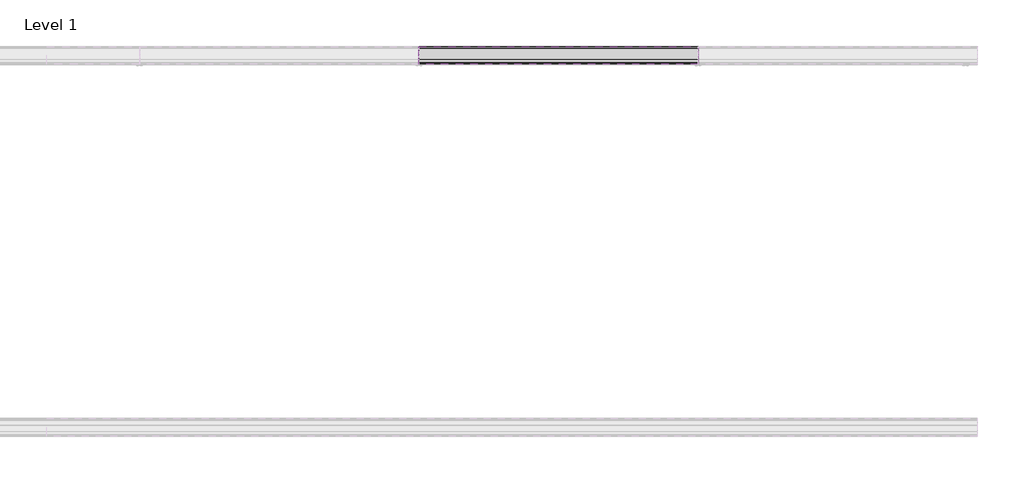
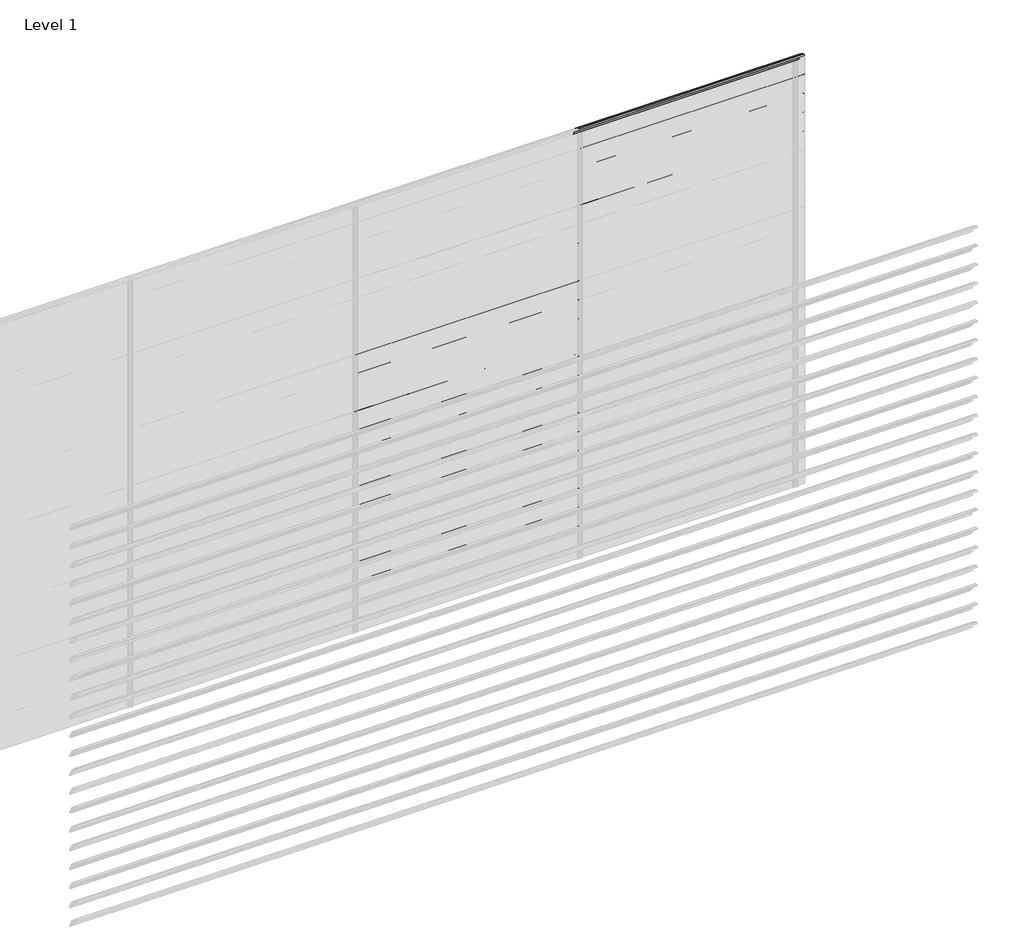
# One storey, part 56 of 57: 21 proxies.
"""IFC4 building model written with IfcOpenShell, lengths in millimetres."""

from ifc_helpers import new_model, si_unit, point, frame, frame_2d, origin, place, context, project, spatial, polyline, circle_curve, trimmed, segment, composite_curve, outline, extrude, element, save

model = new_model("IFC4")

# Units and contexts
model_context = context("Model", 3, world=origin())
ifc_project = project(units=[si_unit("LENGTHUNIT", "METRE", prefix="MILLI")], contexts=[model_context])

# Site, building, storey
site = spatial("IfcSite", under=ifc_project)
building = spatial("IfcBuilding", under=site)
storey = spatial("IfcBuildingStorey", under=building, Name="Level 1", Elevation=0.0)

# Proxies
placement = place(None, origin())
element("IfcBuildingElementProxy", 1, Name="Wall Sweeps", at=placement, inside=storey, context=model_context, shape_type="SweptSolid", body=[
    extrude(outline(composite_curve([segment(trimmed(circle_curve(frame_2d((6.2177474, 2218.4913792)), 4.2177474), [point((10.3014394, 2219.5462976))], [point((6.2177474, 2222.7091266))], False, "CARTESIAN"), True, "CONTINUOUS"), segment(trimmed(circle_curve(frame_2d((-18.7150834, 2120.2536312)), 105.4456002), [point((6.2177474, 2222.7091266))], [point((28.2085702, 2214.6832099))], False, "CARTESIAN"), True, "CONTINUOUS"), segment(trimmed(circle_curve(frame_2d((-61.7199745, 2066.0352476)), 173.7335887), [point((28.2085702, 2214.6832099))], [point((86.9279879, 2155.9637922))], False, "CARTESIAN"), True, "CONTINUOUS"), segment(trimmed(circle_curve(frame_2d((-4.9297178, 2104.1860314)), 105.4456002), [point((86.9279879, 2155.9637922))], [point((96.3750384, 2133.4455765))], False, "CARTESIAN"), True, "CONTINUOUS"), segment(trimmed(circle_curve(frame_2d((92.190263, 2132.3307305)), 4.3307305), [point((96.3750384, 2133.4455765))], [point((90.9230804, 2128.189538))], False, "CARTESIAN"), True, "CONTINUOUS"), segment(polyline([(90.9230804, 2128.189538), (65.2598016, 2152.9722783)]), True, "CONTINUOUS"), segment(trimmed(circle_curve(frame_2d((68.6120426, 2155.2977626)), 4.079877), [point((65.2598016, 2152.9722783))], [point((69.2689403, 2159.3244091))], False, "CARTESIAN"), True, "CONTINUOUS"), segment(trimmed(circle_curve(frame_2d((-14.6665585, 2137.2544323)), 86.7885467), [point((69.2689403, 2159.3244091))], [point((57.6971649, 2185.1683485))], True, "CARTESIAN"), True, "CONTINUOUS"), segment(polyline([(57.6971649, 2185.1683485), (59.2769901, 2187.9046861)]), True, "CONTINUOUS"), segment(trimmed(circle_curve(frame_2d((-61.7199745, 2066.0352476)), 171.7335887), [point((59.2769901, 2187.9046861))], [point((27.2444128, 2212.9289618))], True, "CARTESIAN"), True, "CONTINUOUS"), segment(trimmed(circle_curve(frame_2d((-18.7150834, 2120.2536312)), 103.4456002), [point((27.2444128, 2212.9289618))], [point((10.3014394, 2219.5462976))], True, "CARTESIAN"), True, "CONTINUOUS")], self_intersect=False)), frame((3000.0, 0.0, 0.0), z_axis=(1.0, 0.0, 0.0), x_axis=(0.0, 1.0, 0.0)), (0.0, 0.0, 1.0), 1500.0),
])
element("IfcBuildingElementProxy", 2, Name="Wall Sweeps", at=placement, inside=storey, context=model_context, shape_type="SweptSolid", body=[
    extrude(outline(composite_curve([segment(trimmed(circle_curve(frame_2d((6.2177474, 2085.4913792)), 4.2177474), [point((10.3014394, 2086.5462976))], [point((6.2177474, 2089.7091266))], False, "CARTESIAN"), True, "CONTINUOUS"), segment(trimmed(circle_curve(frame_2d((-18.7150834, 1987.2536312)), 105.4456002), [point((6.2177474, 2089.7091266))], [point((28.2085702, 2081.6832099))], False, "CARTESIAN"), True, "CONTINUOUS"), segment(trimmed(circle_curve(frame_2d((-61.7199745, 1933.0352476)), 173.7335887), [point((28.2085702, 2081.6832099))], [point((86.9279879, 2022.9637922))], False, "CARTESIAN"), True, "CONTINUOUS"), segment(trimmed(circle_curve(frame_2d((-4.9297178, 1971.1860314)), 105.4456002), [point((86.9279879, 2022.9637922))], [point((96.3750384, 2000.4455765))], False, "CARTESIAN"), True, "CONTINUOUS"), segment(trimmed(circle_curve(frame_2d((92.190263, 1999.3307305)), 4.3307305), [point((96.3750384, 2000.4455765))], [point((90.9230804, 1995.189538))], False, "CARTESIAN"), True, "CONTINUOUS"), segment(polyline([(90.9230804, 1995.189538), (65.2598016, 2019.9722783)]), True, "CONTINUOUS"), segment(trimmed(circle_curve(frame_2d((68.6120426, 2022.2977626)), 4.079877), [point((65.2598016, 2019.9722783))], [point((69.2689403, 2026.3244091))], False, "CARTESIAN"), True, "CONTINUOUS"), segment(trimmed(circle_curve(frame_2d((-14.6665585, 2004.2544323)), 86.7885467), [point((69.2689403, 2026.3244091))], [point((57.6971649, 2052.1683485))], True, "CARTESIAN"), True, "CONTINUOUS"), segment(polyline([(57.6971649, 2052.1683485), (59.2769901, 2054.9046861)]), True, "CONTINUOUS"), segment(trimmed(circle_curve(frame_2d((-61.7199745, 1933.0352476)), 171.7335887), [point((59.2769901, 2054.9046861))], [point((27.2444128, 2079.9289618))], True, "CARTESIAN"), True, "CONTINUOUS"), segment(trimmed(circle_curve(frame_2d((-18.7150834, 1987.2536312)), 103.4456002), [point((27.2444128, 2079.9289618))], [point((10.3014394, 2086.5462976))], True, "CARTESIAN"), True, "CONTINUOUS")], self_intersect=False)), frame((3000.0, 0.0, 0.0), z_axis=(1.0, 0.0, 0.0), x_axis=(0.0, 1.0, 0.0)), (0.0, 0.0, 1.0), 1500.0),
])
element("IfcBuildingElementProxy", 3, Name="Wall Sweeps", at=placement, inside=storey, context=model_context, shape_type="SweptSolid", body=[
    extrude(outline(composite_curve([segment(trimmed(circle_curve(frame_2d((6.2177474, 1952.4913792)), 4.2177474), [point((10.3014394, 1953.5462976))], [point((6.2177474, 1956.7091266))], False, "CARTESIAN"), True, "CONTINUOUS"), segment(trimmed(circle_curve(frame_2d((-18.7150834, 1854.2536312)), 105.4456002), [point((6.2177474, 1956.7091266))], [point((28.2085702, 1948.6832099))], False, "CARTESIAN"), True, "CONTINUOUS"), segment(trimmed(circle_curve(frame_2d((-61.7199745, 1800.0352476)), 173.7335887), [point((28.2085702, 1948.6832099))], [point((86.9279879, 1889.9637922))], False, "CARTESIAN"), True, "CONTINUOUS"), segment(trimmed(circle_curve(frame_2d((-4.9297178, 1838.1860314)), 105.4456002), [point((86.9279879, 1889.9637922))], [point((96.3750384, 1867.4455765))], False, "CARTESIAN"), True, "CONTINUOUS"), segment(trimmed(circle_curve(frame_2d((92.190263, 1866.3307305)), 4.3307305), [point((96.3750384, 1867.4455765))], [point((90.9230804, 1862.189538))], False, "CARTESIAN"), True, "CONTINUOUS"), segment(polyline([(90.9230804, 1862.189538), (65.2598016, 1886.9722783)]), True, "CONTINUOUS"), segment(trimmed(circle_curve(frame_2d((68.6120426, 1889.2977626)), 4.079877), [point((65.2598016, 1886.9722783))], [point((69.2689403, 1893.3244091))], False, "CARTESIAN"), True, "CONTINUOUS"), segment(trimmed(circle_curve(frame_2d((-14.6665585, 1871.2544323)), 86.7885467), [point((69.2689403, 1893.3244091))], [point((57.6971649, 1919.1683485))], True, "CARTESIAN"), True, "CONTINUOUS"), segment(polyline([(57.6971649, 1919.1683485), (59.2769901, 1921.9046861)]), True, "CONTINUOUS"), segment(trimmed(circle_curve(frame_2d((-61.7199745, 1800.0352476)), 171.7335887), [point((59.2769901, 1921.9046861))], [point((27.2444128, 1946.9289618))], True, "CARTESIAN"), True, "CONTINUOUS"), segment(trimmed(circle_curve(frame_2d((-18.7150834, 1854.2536312)), 103.4456002), [point((27.2444128, 1946.9289618))], [point((10.3014394, 1953.5462976))], True, "CARTESIAN"), True, "CONTINUOUS")], self_intersect=False)), frame((3000.0, 0.0, 0.0), z_axis=(1.0, 0.0, 0.0), x_axis=(0.0, 1.0, 0.0)), (0.0, 0.0, 1.0), 1500.0),
])
element("IfcBuildingElementProxy", 4, Name="Wall Sweeps", at=placement, inside=storey, context=model_context, shape_type="SweptSolid", body=[
    extrude(outline(composite_curve([segment(trimmed(circle_curve(frame_2d((6.2177474, 1819.4913792)), 4.2177474), [point((10.3014394, 1820.5462976))], [point((6.2177474, 1823.7091266))], False, "CARTESIAN"), True, "CONTINUOUS"), segment(trimmed(circle_curve(frame_2d((-18.7150834, 1721.2536312)), 105.4456002), [point((6.2177474, 1823.7091266))], [point((28.2085702, 1815.6832099))], False, "CARTESIAN"), True, "CONTINUOUS"), segment(trimmed(circle_curve(frame_2d((-61.7199745, 1667.0352476)), 173.7335887), [point((28.2085702, 1815.6832099))], [point((86.9279879, 1756.9637922))], False, "CARTESIAN"), True, "CONTINUOUS"), segment(trimmed(circle_curve(frame_2d((-4.9297178, 1705.1860314)), 105.4456002), [point((86.9279879, 1756.9637922))], [point((96.3750384, 1734.4455765))], False, "CARTESIAN"), True, "CONTINUOUS"), segment(trimmed(circle_curve(frame_2d((92.190263, 1733.3307305)), 4.3307305), [point((96.3750384, 1734.4455765))], [point((90.9230804, 1729.189538))], False, "CARTESIAN"), True, "CONTINUOUS"), segment(polyline([(90.9230804, 1729.189538), (65.2598016, 1753.9722783)]), True, "CONTINUOUS"), segment(trimmed(circle_curve(frame_2d((68.6120426, 1756.2977626)), 4.079877), [point((65.2598016, 1753.9722783))], [point((69.2689403, 1760.3244091))], False, "CARTESIAN"), True, "CONTINUOUS"), segment(trimmed(circle_curve(frame_2d((-14.6665585, 1738.2544323)), 86.7885467), [point((69.2689403, 1760.3244091))], [point((57.6971649, 1786.1683485))], True, "CARTESIAN"), True, "CONTINUOUS"), segment(polyline([(57.6971649, 1786.1683485), (59.2769901, 1788.9046861)]), True, "CONTINUOUS"), segment(trimmed(circle_curve(frame_2d((-61.7199745, 1667.0352476)), 171.7335887), [point((59.2769901, 1788.9046861))], [point((27.2444128, 1813.9289618))], True, "CARTESIAN"), True, "CONTINUOUS"), segment(trimmed(circle_curve(frame_2d((-18.7150834, 1721.2536312)), 103.4456002), [point((27.2444128, 1813.9289618))], [point((10.3014394, 1820.5462976))], True, "CARTESIAN"), True, "CONTINUOUS")], self_intersect=False)), frame((3000.0, 0.0, 0.0), z_axis=(1.0, 0.0, 0.0), x_axis=(0.0, 1.0, 0.0)), (0.0, 0.0, 1.0), 1500.0),
])
element("IfcBuildingElementProxy", 5, Name="Wall Sweeps", at=placement, inside=storey, context=model_context, shape_type="SweptSolid", body=[
    extrude(outline(composite_curve([segment(trimmed(circle_curve(frame_2d((6.2177474, 1686.4913792)), 4.2177474), [point((10.3014394, 1687.5462976))], [point((6.2177474, 1690.7091266))], False, "CARTESIAN"), True, "CONTINUOUS"), segment(trimmed(circle_curve(frame_2d((-18.7150834, 1588.2536312)), 105.4456002), [point((6.2177474, 1690.7091266))], [point((28.2085702, 1682.6832099))], False, "CARTESIAN"), True, "CONTINUOUS"), segment(trimmed(circle_curve(frame_2d((-61.7199745, 1534.0352476)), 173.7335887), [point((28.2085702, 1682.6832099))], [point((86.9279879, 1623.9637922))], False, "CARTESIAN"), True, "CONTINUOUS"), segment(trimmed(circle_curve(frame_2d((-4.9297178, 1572.1860314)), 105.4456002), [point((86.9279879, 1623.9637922))], [point((96.3750384, 1601.4455765))], False, "CARTESIAN"), True, "CONTINUOUS"), segment(trimmed(circle_curve(frame_2d((92.190263, 1600.3307305)), 4.3307305), [point((96.3750384, 1601.4455765))], [point((90.9230804, 1596.189538))], False, "CARTESIAN"), True, "CONTINUOUS"), segment(polyline([(90.9230804, 1596.189538), (65.2598016, 1620.9722783)]), True, "CONTINUOUS"), segment(trimmed(circle_curve(frame_2d((68.6120426, 1623.2977626)), 4.079877), [point((65.2598016, 1620.9722783))], [point((69.2689403, 1627.3244091))], False, "CARTESIAN"), True, "CONTINUOUS"), segment(trimmed(circle_curve(frame_2d((-14.6665585, 1605.2544323)), 86.7885467), [point((69.2689403, 1627.3244091))], [point((57.6971649, 1653.1683485))], True, "CARTESIAN"), True, "CONTINUOUS"), segment(polyline([(57.6971649, 1653.1683485), (59.2769901, 1655.9046861)]), True, "CONTINUOUS"), segment(trimmed(circle_curve(frame_2d((-61.7199745, 1534.0352476)), 171.7335887), [point((59.2769901, 1655.9046861))], [point((27.2444128, 1680.9289618))], True, "CARTESIAN"), True, "CONTINUOUS"), segment(trimmed(circle_curve(frame_2d((-18.7150834, 1588.2536312)), 103.4456002), [point((27.2444128, 1680.9289618))], [point((10.3014394, 1687.5462976))], True, "CARTESIAN"), True, "CONTINUOUS")], self_intersect=False)), frame((3000.0, 0.0, 0.0), z_axis=(1.0, 0.0, 0.0), x_axis=(0.0, 1.0, 0.0)), (0.0, 0.0, 1.0), 1500.0),
])
element("IfcBuildingElementProxy", 6, Name="Wall Sweeps", at=placement, inside=storey, context=model_context, shape_type="SweptSolid", body=[
    extrude(outline(composite_curve([segment(trimmed(circle_curve(frame_2d((6.2177474, 1553.4913792)), 4.2177474), [point((10.3014394, 1554.5462976))], [point((6.2177474, 1557.7091266))], False, "CARTESIAN"), True, "CONTINUOUS"), segment(trimmed(circle_curve(frame_2d((-18.7150834, 1455.2536312)), 105.4456002), [point((6.2177474, 1557.7091266))], [point((28.2085702, 1549.6832099))], False, "CARTESIAN"), True, "CONTINUOUS"), segment(trimmed(circle_curve(frame_2d((-61.7199745, 1401.0352476)), 173.7335887), [point((28.2085702, 1549.6832099))], [point((86.9279879, 1490.9637922))], False, "CARTESIAN"), True, "CONTINUOUS"), segment(trimmed(circle_curve(frame_2d((-4.9297178, 1439.1860314)), 105.4456002), [point((86.9279879, 1490.9637922))], [point((96.3750384, 1468.4455765))], False, "CARTESIAN"), True, "CONTINUOUS"), segment(trimmed(circle_curve(frame_2d((92.190263, 1467.3307305)), 4.3307305), [point((96.3750384, 1468.4455765))], [point((90.9230804, 1463.189538))], False, "CARTESIAN"), True, "CONTINUOUS"), segment(polyline([(90.9230804, 1463.189538), (65.2598016, 1487.9722783)]), True, "CONTINUOUS"), segment(trimmed(circle_curve(frame_2d((68.6120426, 1490.2977626)), 4.079877), [point((65.2598016, 1487.9722783))], [point((69.2689403, 1494.3244091))], False, "CARTESIAN"), True, "CONTINUOUS"), segment(trimmed(circle_curve(frame_2d((-14.6665585, 1472.2544323)), 86.7885467), [point((69.2689403, 1494.3244091))], [point((57.6971649, 1520.1683485))], True, "CARTESIAN"), True, "CONTINUOUS"), segment(polyline([(57.6971649, 1520.1683485), (59.2769901, 1522.9046861)]), True, "CONTINUOUS"), segment(trimmed(circle_curve(frame_2d((-61.7199745, 1401.0352476)), 171.7335887), [point((59.2769901, 1522.9046861))], [point((27.2444128, 1547.9289618))], True, "CARTESIAN"), True, "CONTINUOUS"), segment(trimmed(circle_curve(frame_2d((-18.7150834, 1455.2536312)), 103.4456002), [point((27.2444128, 1547.9289618))], [point((10.3014394, 1554.5462976))], True, "CARTESIAN"), True, "CONTINUOUS")], self_intersect=False)), frame((3000.0, 0.0, 0.0), z_axis=(1.0, 0.0, 0.0), x_axis=(0.0, 1.0, 0.0)), (0.0, 0.0, 1.0), 1500.0),
])
element("IfcBuildingElementProxy", 7, Name="Wall Sweeps", at=placement, inside=storey, context=model_context, shape_type="SweptSolid", body=[
    extrude(outline(composite_curve([segment(trimmed(circle_curve(frame_2d((6.2177474, 1420.4913792)), 4.2177474), [point((10.3014394, 1421.5462976))], [point((6.2177474, 1424.7091266))], False, "CARTESIAN"), True, "CONTINUOUS"), segment(trimmed(circle_curve(frame_2d((-18.7150834, 1322.2536312)), 105.4456002), [point((6.2177474, 1424.7091266))], [point((28.2085702, 1416.6832099))], False, "CARTESIAN"), True, "CONTINUOUS"), segment(trimmed(circle_curve(frame_2d((-61.7199745, 1268.0352476)), 173.7335887), [point((28.2085702, 1416.6832099))], [point((86.9279879, 1357.9637922))], False, "CARTESIAN"), True, "CONTINUOUS"), segment(trimmed(circle_curve(frame_2d((-4.9297178, 1306.1860314)), 105.4456002), [point((86.9279879, 1357.9637922))], [point((96.3750384, 1335.4455765))], False, "CARTESIAN"), True, "CONTINUOUS"), segment(trimmed(circle_curve(frame_2d((92.190263, 1334.3307305)), 4.3307305), [point((96.3750384, 1335.4455765))], [point((90.9230804, 1330.189538))], False, "CARTESIAN"), True, "CONTINUOUS"), segment(polyline([(90.9230804, 1330.189538), (65.2598016, 1354.9722783)]), True, "CONTINUOUS"), segment(trimmed(circle_curve(frame_2d((68.6120426, 1357.2977626)), 4.079877), [point((65.2598016, 1354.9722783))], [point((69.2689403, 1361.3244091))], False, "CARTESIAN"), True, "CONTINUOUS"), segment(trimmed(circle_curve(frame_2d((-14.6665585, 1339.2544323)), 86.7885467), [point((69.2689403, 1361.3244091))], [point((57.6971649, 1387.1683485))], True, "CARTESIAN"), True, "CONTINUOUS"), segment(polyline([(57.6971649, 1387.1683485), (59.2769901, 1389.9046861)]), True, "CONTINUOUS"), segment(trimmed(circle_curve(frame_2d((-61.7199745, 1268.0352476)), 171.7335887), [point((59.2769901, 1389.9046861))], [point((27.2444128, 1414.9289618))], True, "CARTESIAN"), True, "CONTINUOUS"), segment(trimmed(circle_curve(frame_2d((-18.7150834, 1322.2536312)), 103.4456002), [point((27.2444128, 1414.9289618))], [point((10.3014394, 1421.5462976))], True, "CARTESIAN"), True, "CONTINUOUS")], self_intersect=False)), frame((3000.0, 0.0, 0.0), z_axis=(1.0, 0.0, 0.0), x_axis=(0.0, 1.0, 0.0)), (0.0, 0.0, 1.0), 1500.0),
])
element("IfcBuildingElementProxy", 8, Name="Wall Sweeps", at=placement, inside=storey, context=model_context, shape_type="SweptSolid", body=[
    extrude(outline(composite_curve([segment(trimmed(circle_curve(frame_2d((6.2177474, 1287.4913792)), 4.2177474), [point((10.3014394, 1288.5462976))], [point((6.2177474, 1291.7091266))], False, "CARTESIAN"), True, "CONTINUOUS"), segment(trimmed(circle_curve(frame_2d((-18.7150834, 1189.2536312)), 105.4456002), [point((6.2177474, 1291.7091266))], [point((28.2085702, 1283.6832099))], False, "CARTESIAN"), True, "CONTINUOUS"), segment(trimmed(circle_curve(frame_2d((-61.7199745, 1135.0352476)), 173.7335887), [point((28.2085702, 1283.6832099))], [point((86.9279879, 1224.9637922))], False, "CARTESIAN"), True, "CONTINUOUS"), segment(trimmed(circle_curve(frame_2d((-4.9297178, 1173.1860314)), 105.4456002), [point((86.9279879, 1224.9637922))], [point((96.3750384, 1202.4455765))], False, "CARTESIAN"), True, "CONTINUOUS"), segment(trimmed(circle_curve(frame_2d((92.190263, 1201.3307305)), 4.3307305), [point((96.3750384, 1202.4455765))], [point((90.9230804, 1197.189538))], False, "CARTESIAN"), True, "CONTINUOUS"), segment(polyline([(90.9230804, 1197.189538), (65.2598016, 1221.9722783)]), True, "CONTINUOUS"), segment(trimmed(circle_curve(frame_2d((68.6120426, 1224.2977626)), 4.079877), [point((65.2598016, 1221.9722783))], [point((69.2689403, 1228.3244091))], False, "CARTESIAN"), True, "CONTINUOUS"), segment(trimmed(circle_curve(frame_2d((-14.6665585, 1206.2544323)), 86.7885467), [point((69.2689403, 1228.3244091))], [point((57.6971649, 1254.1683485))], True, "CARTESIAN"), True, "CONTINUOUS"), segment(polyline([(57.6971649, 1254.1683485), (59.2769901, 1256.9046861)]), True, "CONTINUOUS"), segment(trimmed(circle_curve(frame_2d((-61.7199745, 1135.0352476)), 171.7335887), [point((59.2769901, 1256.9046861))], [point((27.2444128, 1281.9289618))], True, "CARTESIAN"), True, "CONTINUOUS"), segment(trimmed(circle_curve(frame_2d((-18.7150834, 1189.2536312)), 103.4456002), [point((27.2444128, 1281.9289618))], [point((10.3014394, 1288.5462976))], True, "CARTESIAN"), True, "CONTINUOUS")], self_intersect=False)), frame((3000.0, 0.0, 0.0), z_axis=(1.0, 0.0, 0.0), x_axis=(0.0, 1.0, 0.0)), (0.0, 0.0, 1.0), 1500.0),
])
element("IfcBuildingElementProxy", 9, Name="Wall Sweeps", at=placement, inside=storey, context=model_context, shape_type="SweptSolid", body=[
    extrude(outline(composite_curve([segment(trimmed(circle_curve(frame_2d((6.2177474, 1154.4913792)), 4.2177474), [point((10.3014394, 1155.5462976))], [point((6.2177474, 1158.7091266))], False, "CARTESIAN"), True, "CONTINUOUS"), segment(trimmed(circle_curve(frame_2d((-18.7150834, 1056.2536312)), 105.4456002), [point((6.2177474, 1158.7091266))], [point((28.2085702, 1150.6832099))], False, "CARTESIAN"), True, "CONTINUOUS"), segment(trimmed(circle_curve(frame_2d((-61.7199745, 1002.0352476)), 173.7335887), [point((28.2085702, 1150.6832099))], [point((86.9279879, 1091.9637922))], False, "CARTESIAN"), True, "CONTINUOUS"), segment(trimmed(circle_curve(frame_2d((-4.9297178, 1040.1860314)), 105.4456002), [point((86.9279879, 1091.9637922))], [point((96.3750384, 1069.4455765))], False, "CARTESIAN"), True, "CONTINUOUS"), segment(trimmed(circle_curve(frame_2d((92.190263, 1068.3307305)), 4.3307305), [point((96.3750384, 1069.4455765))], [point((90.9230804, 1064.189538))], False, "CARTESIAN"), True, "CONTINUOUS"), segment(polyline([(90.9230804, 1064.189538), (65.2598016, 1088.9722783)]), True, "CONTINUOUS"), segment(trimmed(circle_curve(frame_2d((68.6120426, 1091.2977626)), 4.079877), [point((65.2598016, 1088.9722783))], [point((69.2689403, 1095.3244091))], False, "CARTESIAN"), True, "CONTINUOUS"), segment(trimmed(circle_curve(frame_2d((-14.6665585, 1073.2544323)), 86.7885467), [point((69.2689403, 1095.3244091))], [point((57.6971649, 1121.1683485))], True, "CARTESIAN"), True, "CONTINUOUS"), segment(polyline([(57.6971649, 1121.1683485), (59.2769901, 1123.9046861)]), True, "CONTINUOUS"), segment(trimmed(circle_curve(frame_2d((-61.7199745, 1002.0352476)), 171.7335887), [point((59.2769901, 1123.9046861))], [point((27.2444128, 1148.9289618))], True, "CARTESIAN"), True, "CONTINUOUS"), segment(trimmed(circle_curve(frame_2d((-18.7150834, 1056.2536312)), 103.4456002), [point((27.2444128, 1148.9289618))], [point((10.3014394, 1155.5462976))], True, "CARTESIAN"), True, "CONTINUOUS")], self_intersect=False)), frame((3000.0, 0.0, 0.0), z_axis=(1.0, 0.0, 0.0), x_axis=(0.0, 1.0, 0.0)), (0.0, 0.0, 1.0), 1500.0),
])
element("IfcBuildingElementProxy", 10, Name="Wall Sweeps", at=placement, inside=storey, context=model_context, shape_type="SweptSolid", body=[
    extrude(outline(composite_curve([segment(trimmed(circle_curve(frame_2d((6.2177474, 1021.4913792)), 4.2177474), [point((10.3014394, 1022.5462976))], [point((6.2177474, 1025.7091266))], False, "CARTESIAN"), True, "CONTINUOUS"), segment(trimmed(circle_curve(frame_2d((-18.7150834, 923.2536312)), 105.4456002), [point((6.2177474, 1025.7091266))], [point((28.2085702, 1017.6832099))], False, "CARTESIAN"), True, "CONTINUOUS"), segment(trimmed(circle_curve(frame_2d((-61.7199745, 869.0352476)), 173.7335887), [point((28.2085702, 1017.6832099))], [point((86.9279879, 958.9637922))], False, "CARTESIAN"), True, "CONTINUOUS"), segment(trimmed(circle_curve(frame_2d((-4.9297178, 907.1860314)), 105.4456002), [point((86.9279879, 958.9637922))], [point((96.3750384, 936.4455765))], False, "CARTESIAN"), True, "CONTINUOUS"), segment(trimmed(circle_curve(frame_2d((92.190263, 935.3307305)), 4.3307305), [point((96.3750384, 936.4455765))], [point((90.9230804, 931.189538))], False, "CARTESIAN"), True, "CONTINUOUS"), segment(polyline([(90.9230804, 931.189538), (65.2598016, 955.9722783)]), True, "CONTINUOUS"), segment(trimmed(circle_curve(frame_2d((68.6120426, 958.2977626)), 4.079877), [point((65.2598016, 955.9722783))], [point((69.2689403, 962.3244091))], False, "CARTESIAN"), True, "CONTINUOUS"), segment(trimmed(circle_curve(frame_2d((-14.6665585, 940.2544323)), 86.7885467), [point((69.2689403, 962.3244091))], [point((57.6971649, 988.1683485))], True, "CARTESIAN"), True, "CONTINUOUS"), segment(polyline([(57.6971649, 988.1683485), (59.2769901, 990.9046861)]), True, "CONTINUOUS"), segment(trimmed(circle_curve(frame_2d((-61.7199745, 869.0352476)), 171.7335887), [point((59.2769901, 990.9046861))], [point((27.2444128, 1015.9289618))], True, "CARTESIAN"), True, "CONTINUOUS"), segment(trimmed(circle_curve(frame_2d((-18.7150834, 923.2536312)), 103.4456002), [point((27.2444128, 1015.9289618))], [point((10.3014394, 1022.5462976))], True, "CARTESIAN"), True, "CONTINUOUS")], self_intersect=False)), frame((3000.0, 0.0, 0.0), z_axis=(1.0, 0.0, 0.0), x_axis=(0.0, 1.0, 0.0)), (0.0, 0.0, 1.0), 1500.0),
])
element("IfcBuildingElementProxy", 11, Name="Wall Sweeps", at=placement, inside=storey, context=model_context, shape_type="SweptSolid", body=[
    extrude(outline(composite_curve([segment(trimmed(circle_curve(frame_2d((6.2177474, 888.4913792)), 4.2177474), [point((10.3014394, 889.5462976))], [point((6.2177474, 892.7091266))], False, "CARTESIAN"), True, "CONTINUOUS"), segment(trimmed(circle_curve(frame_2d((-18.7150834, 790.2536312)), 105.4456002), [point((6.2177474, 892.7091266))], [point((28.2085702, 884.6832099))], False, "CARTESIAN"), True, "CONTINUOUS"), segment(trimmed(circle_curve(frame_2d((-61.7199745, 736.0352476)), 173.7335887), [point((28.2085702, 884.6832099))], [point((86.9279879, 825.9637922))], False, "CARTESIAN"), True, "CONTINUOUS"), segment(trimmed(circle_curve(frame_2d((-4.9297178, 774.1860314)), 105.4456002), [point((86.9279879, 825.9637922))], [point((96.3750384, 803.4455765))], False, "CARTESIAN"), True, "CONTINUOUS"), segment(trimmed(circle_curve(frame_2d((92.190263, 802.3307305)), 4.3307305), [point((96.3750384, 803.4455765))], [point((90.9230804, 798.189538))], False, "CARTESIAN"), True, "CONTINUOUS"), segment(polyline([(90.9230804, 798.189538), (65.2598016, 822.9722783)]), True, "CONTINUOUS"), segment(trimmed(circle_curve(frame_2d((68.6120426, 825.2977626)), 4.079877), [point((65.2598016, 822.9722783))], [point((69.2689403, 829.3244091))], False, "CARTESIAN"), True, "CONTINUOUS"), segment(trimmed(circle_curve(frame_2d((-14.6665585, 807.2544323)), 86.7885467), [point((69.2689403, 829.3244091))], [point((57.6971649, 855.1683485))], True, "CARTESIAN"), True, "CONTINUOUS"), segment(polyline([(57.6971649, 855.1683485), (59.2769901, 857.9046861)]), True, "CONTINUOUS"), segment(trimmed(circle_curve(frame_2d((-61.7199745, 736.0352476)), 171.7335887), [point((59.2769901, 857.9046861))], [point((27.2444128, 882.9289618))], True, "CARTESIAN"), True, "CONTINUOUS"), segment(trimmed(circle_curve(frame_2d((-18.7150834, 790.2536312)), 103.4456002), [point((27.2444128, 882.9289618))], [point((10.3014394, 889.5462976))], True, "CARTESIAN"), True, "CONTINUOUS")], self_intersect=False)), frame((3000.0, 0.0, 0.0), z_axis=(1.0, 0.0, 0.0), x_axis=(0.0, 1.0, 0.0)), (0.0, 0.0, 1.0), 1500.0),
])
element("IfcBuildingElementProxy", 12, Name="Wall Sweeps", at=placement, inside=storey, context=model_context, shape_type="SweptSolid", body=[
    extrude(outline(composite_curve([segment(trimmed(circle_curve(frame_2d((6.2177474, 755.4913792)), 4.2177474), [point((10.3014394, 756.5462976))], [point((6.2177474, 759.7091266))], False, "CARTESIAN"), True, "CONTINUOUS"), segment(trimmed(circle_curve(frame_2d((-18.7150834, 657.2536312)), 105.4456002), [point((6.2177474, 759.7091266))], [point((28.2085702, 751.6832099))], False, "CARTESIAN"), True, "CONTINUOUS"), segment(trimmed(circle_curve(frame_2d((-61.7199745, 603.0352476)), 173.7335887), [point((28.2085702, 751.6832099))], [point((86.9279879, 692.9637922))], False, "CARTESIAN"), True, "CONTINUOUS"), segment(trimmed(circle_curve(frame_2d((-4.9297178, 641.1860314)), 105.4456002), [point((86.9279879, 692.9637922))], [point((96.3750384, 670.4455765))], False, "CARTESIAN"), True, "CONTINUOUS"), segment(trimmed(circle_curve(frame_2d((92.190263, 669.3307305)), 4.3307305), [point((96.3750384, 670.4455765))], [point((90.9230804, 665.189538))], False, "CARTESIAN"), True, "CONTINUOUS"), segment(polyline([(90.9230804, 665.189538), (65.2598016, 689.9722783)]), True, "CONTINUOUS"), segment(trimmed(circle_curve(frame_2d((68.6120426, 692.2977626)), 4.079877), [point((65.2598016, 689.9722783))], [point((69.2689403, 696.3244091))], False, "CARTESIAN"), True, "CONTINUOUS"), segment(trimmed(circle_curve(frame_2d((-14.6665585, 674.2544323)), 86.7885467), [point((69.2689403, 696.3244091))], [point((57.6971649, 722.1683485))], True, "CARTESIAN"), True, "CONTINUOUS"), segment(polyline([(57.6971649, 722.1683485), (59.2769901, 724.9046861)]), True, "CONTINUOUS"), segment(trimmed(circle_curve(frame_2d((-61.7199745, 603.0352476)), 171.7335887), [point((59.2769901, 724.9046861))], [point((27.2444128, 749.9289618))], True, "CARTESIAN"), True, "CONTINUOUS"), segment(trimmed(circle_curve(frame_2d((-18.7150834, 657.2536312)), 103.4456002), [point((27.2444128, 749.9289618))], [point((10.3014394, 756.5462976))], True, "CARTESIAN"), True, "CONTINUOUS")], self_intersect=False)), frame((3000.0, 0.0, 0.0), z_axis=(1.0, 0.0, 0.0), x_axis=(0.0, 1.0, 0.0)), (0.0, 0.0, 1.0), 1500.0),
])
element("IfcBuildingElementProxy", 13, Name="Wall Sweeps", at=placement, inside=storey, context=model_context, shape_type="SweptSolid", body=[
    extrude(outline(composite_curve([segment(trimmed(circle_curve(frame_2d((6.2177474, 622.4913792)), 4.2177474), [point((10.3014394, 623.5462976))], [point((6.2177474, 626.7091266))], False, "CARTESIAN"), True, "CONTINUOUS"), segment(trimmed(circle_curve(frame_2d((-18.7150834, 524.2536312)), 105.4456002), [point((6.2177474, 626.7091266))], [point((28.2085702, 618.6832099))], False, "CARTESIAN"), True, "CONTINUOUS"), segment(trimmed(circle_curve(frame_2d((-61.7199745, 470.0352476)), 173.7335887), [point((28.2085702, 618.6832099))], [point((86.9279879, 559.9637922))], False, "CARTESIAN"), True, "CONTINUOUS"), segment(trimmed(circle_curve(frame_2d((-4.9297178, 508.1860314)), 105.4456002), [point((86.9279879, 559.9637922))], [point((96.3750384, 537.4455765))], False, "CARTESIAN"), True, "CONTINUOUS"), segment(trimmed(circle_curve(frame_2d((92.190263, 536.3307305)), 4.3307305), [point((96.3750384, 537.4455765))], [point((90.9230804, 532.189538))], False, "CARTESIAN"), True, "CONTINUOUS"), segment(polyline([(90.9230804, 532.189538), (65.2598016, 556.9722783)]), True, "CONTINUOUS"), segment(trimmed(circle_curve(frame_2d((68.6120426, 559.2977626)), 4.079877), [point((65.2598016, 556.9722783))], [point((69.2689403, 563.3244091))], False, "CARTESIAN"), True, "CONTINUOUS"), segment(trimmed(circle_curve(frame_2d((-14.6665585, 541.2544323)), 86.7885467), [point((69.2689403, 563.3244091))], [point((57.6971649, 589.1683485))], True, "CARTESIAN"), True, "CONTINUOUS"), segment(polyline([(57.6971649, 589.1683485), (59.2769901, 591.9046861)]), True, "CONTINUOUS"), segment(trimmed(circle_curve(frame_2d((-61.7199745, 470.0352476)), 171.7335887), [point((59.2769901, 591.9046861))], [point((27.2444128, 616.9289618))], True, "CARTESIAN"), True, "CONTINUOUS"), segment(trimmed(circle_curve(frame_2d((-18.7150834, 524.2536312)), 103.4456002), [point((27.2444128, 616.9289618))], [point((10.3014394, 623.5462976))], True, "CARTESIAN"), True, "CONTINUOUS")], self_intersect=False)), frame((3000.0, 0.0, 0.0), z_axis=(1.0, 0.0, 0.0), x_axis=(0.0, 1.0, 0.0)), (0.0, 0.0, 1.0), 1500.0),
])
element("IfcBuildingElementProxy", 14, Name="Wall Sweeps", at=placement, inside=storey, context=model_context, shape_type="SweptSolid", body=[
    extrude(outline(composite_curve([segment(trimmed(circle_curve(frame_2d((6.2177474, 489.4913792)), 4.2177474), [point((10.3014394, 490.5462976))], [point((6.2177474, 493.7091266))], False, "CARTESIAN"), True, "CONTINUOUS"), segment(trimmed(circle_curve(frame_2d((-18.7150834, 391.2536312)), 105.4456002), [point((6.2177474, 493.7091266))], [point((28.2085702, 485.6832099))], False, "CARTESIAN"), True, "CONTINUOUS"), segment(trimmed(circle_curve(frame_2d((-61.7199745, 337.0352476)), 173.7335887), [point((28.2085702, 485.6832099))], [point((86.9279879, 426.9637922))], False, "CARTESIAN"), True, "CONTINUOUS"), segment(trimmed(circle_curve(frame_2d((-4.9297178, 375.1860314)), 105.4456002), [point((86.9279879, 426.9637922))], [point((96.3750384, 404.4455765))], False, "CARTESIAN"), True, "CONTINUOUS"), segment(trimmed(circle_curve(frame_2d((92.190263, 403.3307305)), 4.3307305), [point((96.3750384, 404.4455765))], [point((90.9230804, 399.189538))], False, "CARTESIAN"), True, "CONTINUOUS"), segment(polyline([(90.9230804, 399.189538), (65.2598016, 423.9722783)]), True, "CONTINUOUS"), segment(trimmed(circle_curve(frame_2d((68.6120426, 426.2977626)), 4.079877), [point((65.2598016, 423.9722783))], [point((69.2689403, 430.3244091))], False, "CARTESIAN"), True, "CONTINUOUS"), segment(trimmed(circle_curve(frame_2d((-14.6665585, 408.2544323)), 86.7885467), [point((69.2689403, 430.3244091))], [point((57.6971649, 456.1683485))], True, "CARTESIAN"), True, "CONTINUOUS"), segment(polyline([(57.6971649, 456.1683485), (59.2769901, 458.9046861)]), True, "CONTINUOUS"), segment(trimmed(circle_curve(frame_2d((-61.7199745, 337.0352476)), 171.7335887), [point((59.2769901, 458.9046861))], [point((27.2444128, 483.9289618))], True, "CARTESIAN"), True, "CONTINUOUS"), segment(trimmed(circle_curve(frame_2d((-18.7150834, 391.2536312)), 103.4456002), [point((27.2444128, 483.9289618))], [point((10.3014394, 490.5462976))], True, "CARTESIAN"), True, "CONTINUOUS")], self_intersect=False)), frame((3000.0, 0.0, 0.0), z_axis=(1.0, 0.0, 0.0), x_axis=(0.0, 1.0, 0.0)), (0.0, 0.0, 1.0), 1500.0),
])
element("IfcBuildingElementProxy", 15, Name="Wall Sweeps", at=placement, inside=storey, context=model_context, shape_type="SweptSolid", body=[
    extrude(outline(composite_curve([segment(trimmed(circle_curve(frame_2d((6.2177474, 356.4913792)), 4.2177474), [point((10.3014394, 357.5462976))], [point((6.2177474, 360.7091266))], False, "CARTESIAN"), True, "CONTINUOUS"), segment(trimmed(circle_curve(frame_2d((-18.7150834, 258.2536312)), 105.4456002), [point((6.2177474, 360.7091266))], [point((28.2085702, 352.6832099))], False, "CARTESIAN"), True, "CONTINUOUS"), segment(trimmed(circle_curve(frame_2d((-61.7199745, 204.0352476)), 173.7335887), [point((28.2085702, 352.6832099))], [point((86.9279879, 293.9637922))], False, "CARTESIAN"), True, "CONTINUOUS"), segment(trimmed(circle_curve(frame_2d((-4.9297178, 242.1860314)), 105.4456002), [point((86.9279879, 293.9637922))], [point((96.3750384, 271.4455765))], False, "CARTESIAN"), True, "CONTINUOUS"), segment(trimmed(circle_curve(frame_2d((92.190263, 270.3307305)), 4.3307305), [point((96.3750384, 271.4455765))], [point((90.9230804, 266.189538))], False, "CARTESIAN"), True, "CONTINUOUS"), segment(polyline([(90.9230804, 266.189538), (65.2598016, 290.9722783)]), True, "CONTINUOUS"), segment(trimmed(circle_curve(frame_2d((68.6120426, 293.2977626)), 4.079877), [point((65.2598016, 290.9722783))], [point((69.2689403, 297.3244091))], False, "CARTESIAN"), True, "CONTINUOUS"), segment(trimmed(circle_curve(frame_2d((-14.6665585, 275.2544323)), 86.7885467), [point((69.2689403, 297.3244091))], [point((57.6971649, 323.1683485))], True, "CARTESIAN"), True, "CONTINUOUS"), segment(polyline([(57.6971649, 323.1683485), (59.2769901, 325.9046861)]), True, "CONTINUOUS"), segment(trimmed(circle_curve(frame_2d((-61.7199745, 204.0352476)), 171.7335887), [point((59.2769901, 325.9046861))], [point((27.2444128, 350.9289618))], True, "CARTESIAN"), True, "CONTINUOUS"), segment(trimmed(circle_curve(frame_2d((-18.7150834, 258.2536312)), 103.4456002), [point((27.2444128, 350.9289618))], [point((10.3014394, 357.5462976))], True, "CARTESIAN"), True, "CONTINUOUS")], self_intersect=False)), frame((3000.0, 0.0, 0.0), z_axis=(1.0, 0.0, 0.0), x_axis=(0.0, 1.0, 0.0)), (0.0, 0.0, 1.0), 1500.0),
])
element("IfcBuildingElementProxy", 16, Name="Wall Sweeps", at=placement, inside=storey, context=model_context, shape_type="SweptSolid", body=[
    extrude(outline(composite_curve([segment(trimmed(circle_curve(frame_2d((6.2177474, 223.4913792)), 4.2177474), [point((10.3014394, 224.5462976))], [point((6.2177474, 227.7091266))], False, "CARTESIAN"), True, "CONTINUOUS"), segment(trimmed(circle_curve(frame_2d((-18.7150834, 125.2536312)), 105.4456002), [point((6.2177474, 227.7091266))], [point((28.2085702, 219.6832099))], False, "CARTESIAN"), True, "CONTINUOUS"), segment(trimmed(circle_curve(frame_2d((-61.7199745, 71.0352476)), 173.7335887), [point((28.2085702, 219.6832099))], [point((86.9279879, 160.9637922))], False, "CARTESIAN"), True, "CONTINUOUS"), segment(trimmed(circle_curve(frame_2d((-4.9297178, 109.1860314)), 105.4456002), [point((86.9279879, 160.9637922))], [point((96.3750384, 138.4455765))], False, "CARTESIAN"), True, "CONTINUOUS"), segment(trimmed(circle_curve(frame_2d((92.190263, 137.3307305)), 4.3307305), [point((96.3750384, 138.4455765))], [point((90.9230804, 133.189538))], False, "CARTESIAN"), True, "CONTINUOUS"), segment(polyline([(90.9230804, 133.189538), (65.2598016, 157.9722783)]), True, "CONTINUOUS"), segment(trimmed(circle_curve(frame_2d((68.6120426, 160.2977626)), 4.079877), [point((65.2598016, 157.9722783))], [point((69.2689403, 164.3244091))], False, "CARTESIAN"), True, "CONTINUOUS"), segment(trimmed(circle_curve(frame_2d((-14.6665585, 142.2544323)), 86.7885467), [point((69.2689403, 164.3244091))], [point((57.6971649, 190.1683485))], True, "CARTESIAN"), True, "CONTINUOUS"), segment(polyline([(57.6971649, 190.1683485), (59.2769901, 192.9046861)]), True, "CONTINUOUS"), segment(trimmed(circle_curve(frame_2d((-61.7199745, 71.0352476)), 171.7335887), [point((59.2769901, 192.9046861))], [point((27.2444128, 217.9289618))], True, "CARTESIAN"), True, "CONTINUOUS"), segment(trimmed(circle_curve(frame_2d((-18.7150834, 125.2536312)), 103.4456002), [point((27.2444128, 217.9289618))], [point((10.3014394, 224.5462976))], True, "CARTESIAN"), True, "CONTINUOUS")], self_intersect=False)), frame((3000.0, 0.0, 0.0), z_axis=(1.0, 0.0, 0.0), x_axis=(0.0, 1.0, 0.0)), (0.0, 0.0, 1.0), 1500.0),
])
element("IfcBuildingElementProxy", 17, Name="Wall Sweeps", at=placement, inside=storey, context=model_context, shape_type="SweptSolid", body=[
    extrude(outline(composite_curve([segment(trimmed(circle_curve(frame_2d((6.2177474, 3016.4913792)), 4.2177474), [point((10.3014394, 3017.5462976))], [point((6.2177474, 3020.7091266))], False, "CARTESIAN"), True, "CONTINUOUS"), segment(trimmed(circle_curve(frame_2d((-18.7150834, 2918.2536312)), 105.4456002), [point((6.2177474, 3020.7091266))], [point((28.2085702, 3012.6832099))], False, "CARTESIAN"), True, "CONTINUOUS"), segment(trimmed(circle_curve(frame_2d((-61.7199745, 2864.0352476)), 173.7335887), [point((28.2085702, 3012.6832099))], [point((86.9279879, 2953.9637922))], False, "CARTESIAN"), True, "CONTINUOUS"), segment(trimmed(circle_curve(frame_2d((-4.9297178, 2902.1860314)), 105.4456002), [point((86.9279879, 2953.9637922))], [point((96.3750384, 2931.4455765))], False, "CARTESIAN"), True, "CONTINUOUS"), segment(trimmed(circle_curve(frame_2d((92.190263, 2930.3307305)), 4.3307305), [point((96.3750384, 2931.4455765))], [point((90.9230804, 2926.189538))], False, "CARTESIAN"), True, "CONTINUOUS"), segment(polyline([(90.9230804, 2926.189538), (65.2598016, 2950.9722783)]), True, "CONTINUOUS"), segment(trimmed(circle_curve(frame_2d((68.6120426, 2953.2977626)), 4.079877), [point((65.2598016, 2950.9722783))], [point((69.2689403, 2957.3244091))], False, "CARTESIAN"), True, "CONTINUOUS"), segment(trimmed(circle_curve(frame_2d((-14.6665585, 2935.2544323)), 86.7885467), [point((69.2689403, 2957.3244091))], [point((57.6971649, 2983.1683485))], True, "CARTESIAN"), True, "CONTINUOUS"), segment(polyline([(57.6971649, 2983.1683485), (59.2769901, 2985.9046861)]), True, "CONTINUOUS"), segment(trimmed(circle_curve(frame_2d((-61.7199745, 2864.0352476)), 171.7335887), [point((59.2769901, 2985.9046861))], [point((27.2444128, 3010.9289618))], True, "CARTESIAN"), True, "CONTINUOUS"), segment(trimmed(circle_curve(frame_2d((-18.7150834, 2918.2536312)), 103.4456002), [point((27.2444128, 3010.9289618))], [point((10.3014394, 3017.5462976))], True, "CARTESIAN"), True, "CONTINUOUS")], self_intersect=False)), frame((4500.0, 0.0, 0.0), z_axis=(1.0, 0.0, 0.0), x_axis=(0.0, 1.0, 0.0)), (0.0, 0.0, 1.0), 1500.0),
])
element("IfcBuildingElementProxy", 18, Name="Wall Sweeps", at=placement, inside=storey, context=model_context, shape_type="SweptSolid", body=[
    extrude(outline(composite_curve([segment(trimmed(circle_curve(frame_2d((6.2177474, 2883.4913792)), 4.2177474), [point((10.3014394, 2884.5462976))], [point((6.2177474, 2887.7091266))], False, "CARTESIAN"), True, "CONTINUOUS"), segment(trimmed(circle_curve(frame_2d((-18.7150834, 2785.2536312)), 105.4456002), [point((6.2177474, 2887.7091266))], [point((28.2085702, 2879.6832099))], False, "CARTESIAN"), True, "CONTINUOUS"), segment(trimmed(circle_curve(frame_2d((-61.7199745, 2731.0352476)), 173.7335887), [point((28.2085702, 2879.6832099))], [point((86.9279879, 2820.9637922))], False, "CARTESIAN"), True, "CONTINUOUS"), segment(trimmed(circle_curve(frame_2d((-4.9297178, 2769.1860314)), 105.4456002), [point((86.9279879, 2820.9637922))], [point((96.3750384, 2798.4455765))], False, "CARTESIAN"), True, "CONTINUOUS"), segment(trimmed(circle_curve(frame_2d((92.190263, 2797.3307305)), 4.3307305), [point((96.3750384, 2798.4455765))], [point((90.9230804, 2793.189538))], False, "CARTESIAN"), True, "CONTINUOUS"), segment(polyline([(90.9230804, 2793.189538), (65.2598016, 2817.9722783)]), True, "CONTINUOUS"), segment(trimmed(circle_curve(frame_2d((68.6120426, 2820.2977626)), 4.079877), [point((65.2598016, 2817.9722783))], [point((69.2689403, 2824.3244091))], False, "CARTESIAN"), True, "CONTINUOUS"), segment(trimmed(circle_curve(frame_2d((-14.6665585, 2802.2544323)), 86.7885467), [point((69.2689403, 2824.3244091))], [point((57.6971649, 2850.1683485))], True, "CARTESIAN"), True, "CONTINUOUS"), segment(polyline([(57.6971649, 2850.1683485), (59.2769901, 2852.9046861)]), True, "CONTINUOUS"), segment(trimmed(circle_curve(frame_2d((-61.7199745, 2731.0352476)), 171.7335887), [point((59.2769901, 2852.9046861))], [point((27.2444128, 2877.9289618))], True, "CARTESIAN"), True, "CONTINUOUS"), segment(trimmed(circle_curve(frame_2d((-18.7150834, 2785.2536312)), 103.4456002), [point((27.2444128, 2877.9289618))], [point((10.3014394, 2884.5462976))], True, "CARTESIAN"), True, "CONTINUOUS")], self_intersect=False)), frame((4500.0, 0.0, 0.0), z_axis=(1.0, 0.0, 0.0), x_axis=(0.0, 1.0, 0.0)), (0.0, 0.0, 1.0), 1500.0),
])
element("IfcBuildingElementProxy", 19, Name="Wall Sweeps", at=placement, inside=storey, context=model_context, shape_type="SweptSolid", body=[
    extrude(outline(composite_curve([segment(trimmed(circle_curve(frame_2d((6.2177474, 2750.4913792)), 4.2177474), [point((10.3014394, 2751.5462976))], [point((6.2177474, 2754.7091266))], False, "CARTESIAN"), True, "CONTINUOUS"), segment(trimmed(circle_curve(frame_2d((-18.7150834, 2652.2536312)), 105.4456002), [point((6.2177474, 2754.7091266))], [point((28.2085702, 2746.6832099))], False, "CARTESIAN"), True, "CONTINUOUS"), segment(trimmed(circle_curve(frame_2d((-61.7199745, 2598.0352476)), 173.7335887), [point((28.2085702, 2746.6832099))], [point((86.9279879, 2687.9637922))], False, "CARTESIAN"), True, "CONTINUOUS"), segment(trimmed(circle_curve(frame_2d((-4.9297178, 2636.1860314)), 105.4456002), [point((86.9279879, 2687.9637922))], [point((96.3750384, 2665.4455765))], False, "CARTESIAN"), True, "CONTINUOUS"), segment(trimmed(circle_curve(frame_2d((92.190263, 2664.3307305)), 4.3307305), [point((96.3750384, 2665.4455765))], [point((90.9230804, 2660.189538))], False, "CARTESIAN"), True, "CONTINUOUS"), segment(polyline([(90.9230804, 2660.189538), (65.2598016, 2684.9722783)]), True, "CONTINUOUS"), segment(trimmed(circle_curve(frame_2d((68.6120426, 2687.2977626)), 4.079877), [point((65.2598016, 2684.9722783))], [point((69.2689403, 2691.3244091))], False, "CARTESIAN"), True, "CONTINUOUS"), segment(trimmed(circle_curve(frame_2d((-14.6665585, 2669.2544323)), 86.7885467), [point((69.2689403, 2691.3244091))], [point((57.6971649, 2717.1683485))], True, "CARTESIAN"), True, "CONTINUOUS"), segment(polyline([(57.6971649, 2717.1683485), (59.2769901, 2719.9046861)]), True, "CONTINUOUS"), segment(trimmed(circle_curve(frame_2d((-61.7199745, 2598.0352476)), 171.7335887), [point((59.2769901, 2719.9046861))], [point((27.2444128, 2744.9289618))], True, "CARTESIAN"), True, "CONTINUOUS"), segment(trimmed(circle_curve(frame_2d((-18.7150834, 2652.2536312)), 103.4456002), [point((27.2444128, 2744.9289618))], [point((10.3014394, 2751.5462976))], True, "CARTESIAN"), True, "CONTINUOUS")], self_intersect=False)), frame((4500.0, 0.0, 0.0), z_axis=(1.0, 0.0, 0.0), x_axis=(0.0, 1.0, 0.0)), (0.0, 0.0, 1.0), 1500.0),
])
element("IfcBuildingElementProxy", 20, Name="Wall Sweeps", at=placement, inside=storey, context=model_context, shape_type="SweptSolid", body=[
    extrude(outline(composite_curve([segment(trimmed(circle_curve(frame_2d((6.2177474, 2617.4913792)), 4.2177474), [point((10.3014394, 2618.5462976))], [point((6.2177474, 2621.7091266))], False, "CARTESIAN"), True, "CONTINUOUS"), segment(trimmed(circle_curve(frame_2d((-18.7150834, 2519.2536312)), 105.4456002), [point((6.2177474, 2621.7091266))], [point((28.2085702, 2613.6832099))], False, "CARTESIAN"), True, "CONTINUOUS"), segment(trimmed(circle_curve(frame_2d((-61.7199745, 2465.0352476)), 173.7335887), [point((28.2085702, 2613.6832099))], [point((86.9279879, 2554.9637922))], False, "CARTESIAN"), True, "CONTINUOUS"), segment(trimmed(circle_curve(frame_2d((-4.9297178, 2503.1860314)), 105.4456002), [point((86.9279879, 2554.9637922))], [point((96.3750384, 2532.4455765))], False, "CARTESIAN"), True, "CONTINUOUS"), segment(trimmed(circle_curve(frame_2d((92.190263, 2531.3307305)), 4.3307305), [point((96.3750384, 2532.4455765))], [point((90.9230804, 2527.189538))], False, "CARTESIAN"), True, "CONTINUOUS"), segment(polyline([(90.9230804, 2527.189538), (65.2598016, 2551.9722783)]), True, "CONTINUOUS"), segment(trimmed(circle_curve(frame_2d((68.6120426, 2554.2977626)), 4.079877), [point((65.2598016, 2551.9722783))], [point((69.2689403, 2558.3244091))], False, "CARTESIAN"), True, "CONTINUOUS"), segment(trimmed(circle_curve(frame_2d((-14.6665585, 2536.2544323)), 86.7885467), [point((69.2689403, 2558.3244091))], [point((57.6971649, 2584.1683485))], True, "CARTESIAN"), True, "CONTINUOUS"), segment(polyline([(57.6971649, 2584.1683485), (59.2769901, 2586.9046861)]), True, "CONTINUOUS"), segment(trimmed(circle_curve(frame_2d((-61.7199745, 2465.0352476)), 171.7335887), [point((59.2769901, 2586.9046861))], [point((27.2444128, 2611.9289618))], True, "CARTESIAN"), True, "CONTINUOUS"), segment(trimmed(circle_curve(frame_2d((-18.7150834, 2519.2536312)), 103.4456002), [point((27.2444128, 2611.9289618))], [point((10.3014394, 2618.5462976))], True, "CARTESIAN"), True, "CONTINUOUS")], self_intersect=False)), frame((4500.0, 0.0, 0.0), z_axis=(1.0, 0.0, 0.0), x_axis=(0.0, 1.0, 0.0)), (0.0, 0.0, 1.0), 1500.0),
])
element("IfcBuildingElementProxy", 21, Name="Wall Sweeps", at=placement, inside=storey, context=model_context, shape_type="SweptSolid", body=[
    extrude(outline(composite_curve([segment(trimmed(circle_curve(frame_2d((6.2177474, 2484.4913792)), 4.2177474), [point((10.3014394, 2485.5462976))], [point((6.2177474, 2488.7091266))], False, "CARTESIAN"), True, "CONTINUOUS"), segment(trimmed(circle_curve(frame_2d((-18.7150834, 2386.2536312)), 105.4456002), [point((6.2177474, 2488.7091266))], [point((28.2085702, 2480.6832099))], False, "CARTESIAN"), True, "CONTINUOUS"), segment(trimmed(circle_curve(frame_2d((-61.7199745, 2332.0352476)), 173.7335887), [point((28.2085702, 2480.6832099))], [point((86.9279879, 2421.9637922))], False, "CARTESIAN"), True, "CONTINUOUS"), segment(trimmed(circle_curve(frame_2d((-4.9297178, 2370.1860314)), 105.4456002), [point((86.9279879, 2421.9637922))], [point((96.3750384, 2399.4455765))], False, "CARTESIAN"), True, "CONTINUOUS"), segment(trimmed(circle_curve(frame_2d((92.190263, 2398.3307305)), 4.3307305), [point((96.3750384, 2399.4455765))], [point((90.9230804, 2394.189538))], False, "CARTESIAN"), True, "CONTINUOUS"), segment(polyline([(90.9230804, 2394.189538), (65.2598016, 2418.9722783)]), True, "CONTINUOUS"), segment(trimmed(circle_curve(frame_2d((68.6120426, 2421.2977626)), 4.079877), [point((65.2598016, 2418.9722783))], [point((69.2689403, 2425.3244091))], False, "CARTESIAN"), True, "CONTINUOUS"), segment(trimmed(circle_curve(frame_2d((-14.6665585, 2403.2544323)), 86.7885467), [point((69.2689403, 2425.3244091))], [point((57.6971649, 2451.1683485))], True, "CARTESIAN"), True, "CONTINUOUS"), segment(polyline([(57.6971649, 2451.1683485), (59.2769901, 2453.9046861)]), True, "CONTINUOUS"), segment(trimmed(circle_curve(frame_2d((-61.7199745, 2332.0352476)), 171.7335887), [point((59.2769901, 2453.9046861))], [point((27.2444128, 2478.9289618))], True, "CARTESIAN"), True, "CONTINUOUS"), segment(trimmed(circle_curve(frame_2d((-18.7150834, 2386.2536312)), 103.4456002), [point((27.2444128, 2478.9289618))], [point((10.3014394, 2485.5462976))], True, "CARTESIAN"), True, "CONTINUOUS")], self_intersect=False)), frame((4500.0, 0.0, 0.0), z_axis=(1.0, 0.0, 0.0), x_axis=(0.0, 1.0, 0.0)), (0.0, 0.0, 1.0), 1500.0),
])

save(model, "model.ifc")
